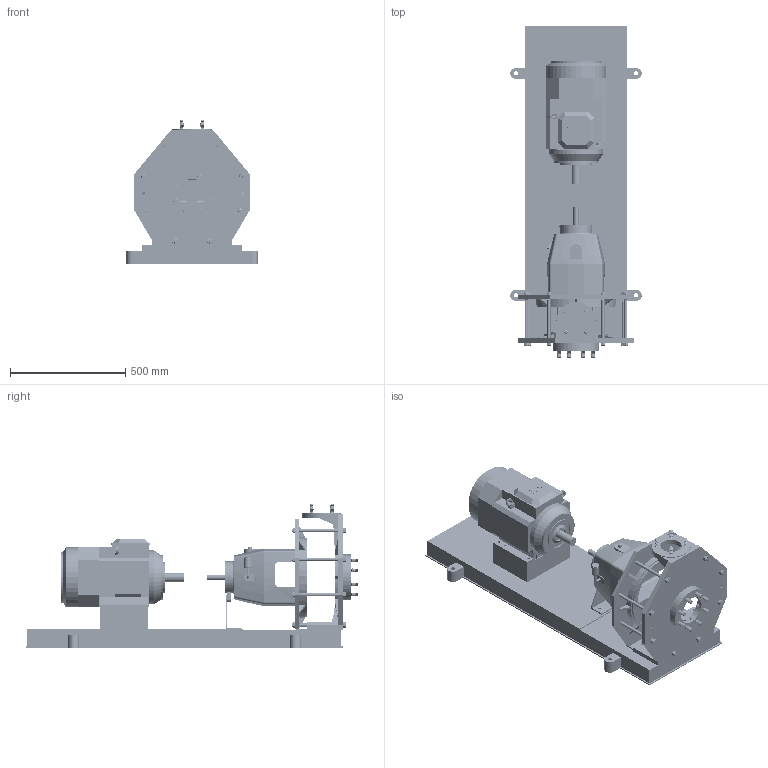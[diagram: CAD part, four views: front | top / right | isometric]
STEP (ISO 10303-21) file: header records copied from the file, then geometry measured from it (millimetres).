
FILE_DESCRIPTION((''),'2;1');
FILE_NAME('KSI 50-315--132 frame.stp','2010-08-04T14:01:03',(''),(''),'AutoCAD STEP 2000i','AutoCAD 2000i',', , ');
FILE_SCHEMA(('CONFIG_CONTROL_DESIGN'));
Length unit declared in the file: millimetre
Products named in the file (2): KSI 50-315--132 FRAME A; A2.4984_85 132 foot
Assembly tree (1 placements, depth 2):
  KSI 50-315--132 FRAME A
    A2.4984_85 132 foot
Bounding box: 570 x 1442 x 622 mm (x, y, z)
Volume: 97748474.2 mm3; surface area: 4273120.8 mm2
Topology: 45 solids, 45 shells, 7945 faces, 19664 edges, 11842 vertices
Faces by surface type: cone 2940, torus 2726, cylinder 1662, plane 589, bspline 28
Entity records: 239726 total; most frequent: DIRECTION 48830, CARTESIAN_POINT 40992, ORIENTED_EDGE 39328, AXIS2_PLACEMENT_3D 21553, EDGE_CURVE 19664, CIRCLE 13632, VERTEX_POINT 11842, EDGE_LOOP 8152
